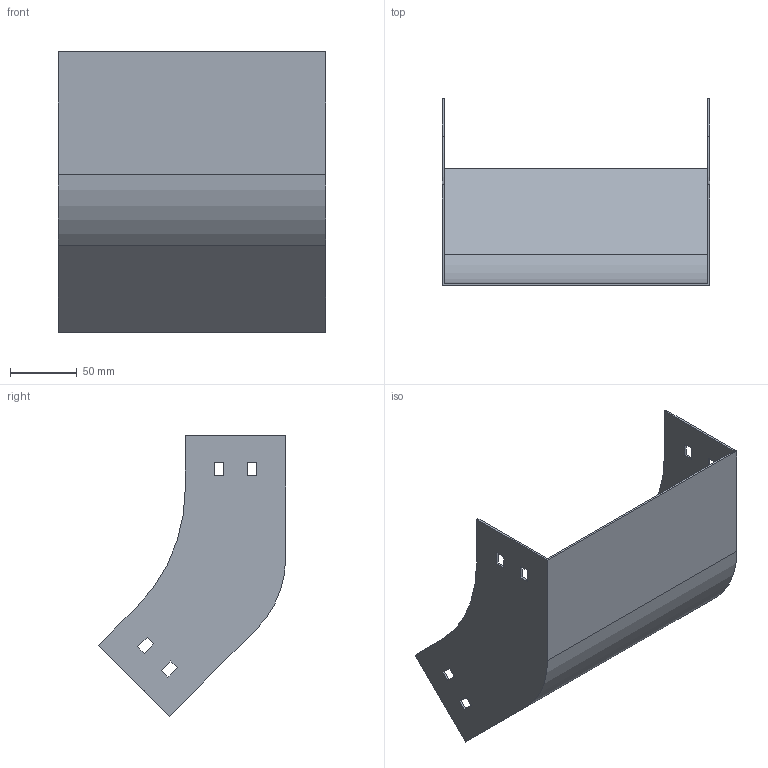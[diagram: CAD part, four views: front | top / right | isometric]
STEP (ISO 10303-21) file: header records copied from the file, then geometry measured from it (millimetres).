
FILE_DESCRIPTION (( 'STEP AP214' ), '1' );
FILE_NAME ('S4_207.step', '2025-07-16T09:26:38', ( '' ), ( '' ), 'SwSTEP 2.0', 'SolidWorks 2023', '' );
FILE_SCHEMA (( 'AUTOMOTIVE_DESIGN' ));
Length unit declared in the file: millimetre
Products named in the file (1): S4_207
Bounding box: 200 x 139.9 x 209.71 mm (x, y, z)
Volume: 119567.2 mm3; surface area: 161408.2 mm2
Topology: 1 solids, 1 shells, 50 faces, 144 edges, 96 vertices
Faces by surface type: plane 46, cylinder 4
Entity records: 1671 total; most frequent: CARTESIAN_POINT 291, ORIENTED_EDGE 288, DIRECTION 254, EDGE_CURVE 144, VECTOR 136, LINE 136, VERTEX_POINT 96, EDGE_LOOP 66
